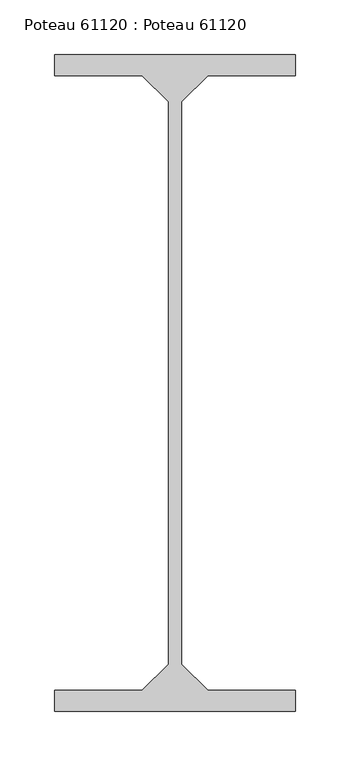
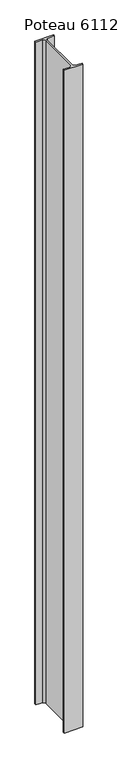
"""IFC4 building model written with IfcOpenShell, lengths in millimetres: beam geometry, Poteau 61120 : Poteau 61120."""

from ifc_helpers import new_model, si_unit, frame, origin, place, context, project, spatial, polyline, outline, extrude, source, transform, mapped, element, save


def poteau_61120_poteau_61120_606a1435(model_context):
    return source(origin(), model_context, "Body", "SweptSolid", [
        extrude(outline(polyline([(-110.0000001, -144.55), (-110.0000001, -125.55), (109.9999999, -125.55), (109.9999999, -144.55), (29.9999999, -144.55), (5.9999999, -168.55), (5.9999999, -682.55), (29.9999999, -706.55), (109.9999999, -706.55), (109.9999999, -725.55), (-110.0000001, -725.55), (-110.0000001, -706.55), (-30.0000001, -706.55), (-6.0000001, -682.55), (-6.0000001, -168.55), (-30.0000001, -144.55), (-110.0000001, -144.55)])), frame((0.0, 0.0, -250.0), z_axis=(0.0, 0.0, 1.0), x_axis=(1.0, 0.0, 0.0)), (0.0, 0.0, 1.0), 8265.14),
    ])


if __name__ == "__main__":
    model = new_model("IFC4")
    model_context = context("Model", 3, world=origin())
    ifc_project = project(units=[si_unit("LENGTHUNIT", "METRE", prefix="MILLI")], contexts=[model_context])
    site = spatial("IfcSite", under=ifc_project)
    building = spatial("IfcBuilding", under=site)
    placement = place(None, origin())
    poteau_61120_poteau_61120_shape = poteau_61120_poteau_61120_606a1435(model_context)
    element("IfcBeam", 1, ObjectType="Poteau 61120 : Poteau 61120", at=placement, inside=building, context=model_context, shape_type="MappedRepresentation", body=[
        mapped(poteau_61120_poteau_61120_shape, transform((0.0, 0.0, 0.0), x_axis=(1.0, 0.0, 0.0), y_axis=(0.0, 1.0, 0.0), z_axis=(0.0, 0.0, 1.0))),
    ])
    save(model, "model.ifc")
